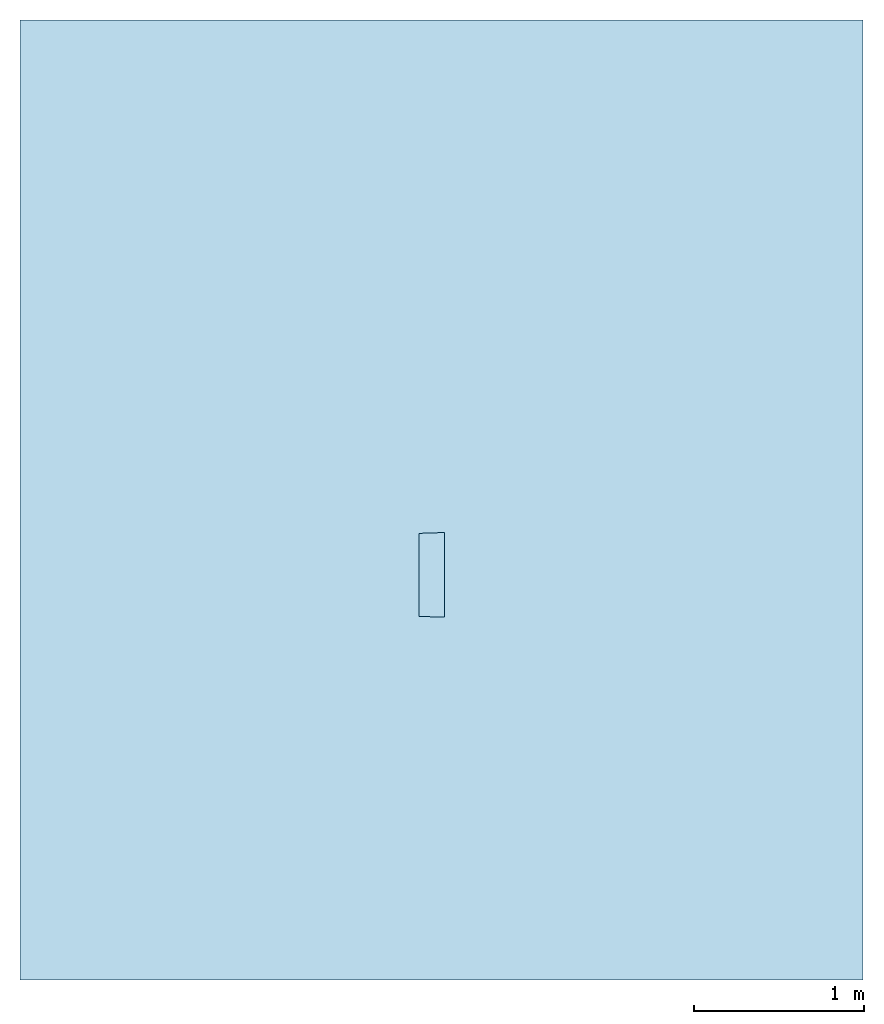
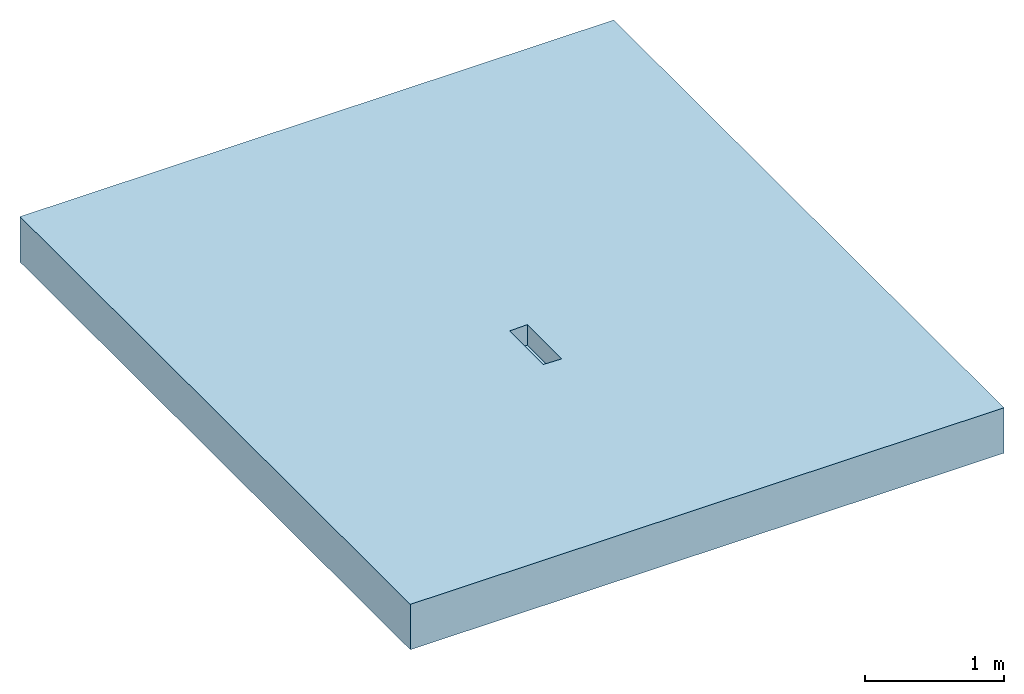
# One storey: 1 slab, 8 openings.
"""IFC2X3 building model written with IfcOpenShell, lengths in millimetres."""

from ifc_helpers import new_model, entity, si_unit, converted_unit, direction, frame, frame_2d, origin, origin_2d_with_axis, place, context, subcontext, project, spatial, polyline, circle_curve, parameter, trimmed, segment, composite_curve, rectangle, outline, extrude, material, layer, layer_set, layer_usage, element, save


model = new_model("IFC2X3")

# Units and contexts
model_context = context("Model", 3, precision=1e-06, world=origin(), true_north=direction((2.0, 6.12303176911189e-17, 1.0)))
context_of_model = context(None, 3, precision=1e-06, world=origin(), true_north=direction((2.0, 6.12303176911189e-17, 1.0)))
body_context = subcontext(model_context, "Body", "Model", "MODEL_VIEW")
ifc_project = project(units=[si_unit("LENGTHUNIT", "METRE", prefix="MILLI"), si_unit("AREAUNIT", "SQUARE_METRE", prefix="MILLI"), si_unit("VOLUMEUNIT", "CUBIC_METRE", prefix="MILLI"), converted_unit("PLANEANGLEUNIT", "DEGREE", entity("IfcRatioMeasure", 0.0174532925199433), si_unit("PLANEANGLEUNIT", "RADIAN"), dimensions=[0, 0, 0, 0, 0, 0, 0]), si_unit("TIMEUNIT", "SECOND")], contexts=[model_context, context_of_model])

# Site, building, storey
site_placement = place(None, origin())
site = spatial("IfcSite", under=ifc_project, at=site_placement, Name="Default", CompositionType="ELEMENT")
building_placement = place(site_placement, origin())
building = spatial("IfcBuilding", under=site, at=building_placement, CompositionType="ELEMENT")
storey_placement = place(building_placement, origin())
storey = spatial("IfcBuildingStorey", under=building, at=storey_placement, Name="Level 1", CompositionType="ELEMENT", Elevation=0.0)

# Slab, openings
ifc_material = material(Name="Default Floor")
ifc_layer = layer(ifc_material, 400.0)
ifc_layer_set = layer_set([ifc_layer], Name="Floor:Generic Floor - 400mm")
ifc_layer_usage = layer_usage(ifc_layer_set, "AXIS3", "POSITIVE", 0.0)
slab_placement = place(storey_placement, frame((-6426.51252910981, -8304.1683846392, -400.0)))
slab = element("IfcSlab", 1, at=slab_placement, inside=storey, material=ifc_layer_usage, Name="Floor:Generic Floor - 400mm", ObjectType="Floor:Generic Floor - 400mm", PredefinedType="FLOOR", context=body_context, shape_type="SweptSolid", body=[
    extrude(rectangle(XDim=5632.29114211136, YDim=4946.28644627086, at=frame_2d((0.0, 0.0), x_axis=(0.0, -1.0))), frame((2473.14322313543, 2816.14557105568, 400.0), z_axis=(0.0, 0.0, -1.0), x_axis=(-1.0, 0.0, 0.0)), (0.0, 0.0, 1.0), 400.0),
])
opening_1_placement = place(slab_placement, origin())
element("IfcOpeningElement", 2, at=opening_1_placement, cuts=slab, ObjectType="Recess", context=body_context, shape_type="SweptSolid", body=[
    extrude(outline(polyline([(0.345136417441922, -99.5859028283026), (250.059069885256, -99.5859028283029), (748.457483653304, -69.1913565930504), (732.85134429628, 81.6537526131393), (490.588397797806, 61.9859364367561), (4.67362464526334, 52.1541665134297), (-241.186092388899, 62.6944521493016), (-730.579325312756, 113.956421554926), (-752.634468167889, -36.3625203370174), (-502.575170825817, -67.7190466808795), (0.345136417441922, -99.5859028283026)])), frame((2389.94728480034, 2876.28426448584, -2670.0), z_axis=(0.0, 0.0, 1.0), x_axis=(0.0217915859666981, -0.999762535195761, 0.0)), (0.0, 0.0, 1.0), 9.99999999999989),
])
opening_2_placement = place(slab_placement, origin())
element("IfcOpeningElement", 3, at=opening_2_placement, cuts=slab, ObjectType="Recess", context=body_context, shape_type="SweptSolid", body=[
    extrude(outline(composite_curve([segment(polyline([(-203.334382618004, -101.667191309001), (101.667191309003, -101.667191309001)]), True, "CONTINUOUS"), segment(polyline([(101.667191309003, -101.667191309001), (101.667191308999, 203.334382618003)]), True, "CONTINUOUS"), segment(trimmed(circle_curve(frame_2d((101.667191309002, -101.667191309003), x_axis=(0.0, -1.0)), 305.001573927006), [parameter(180.0)], [parameter(270.0)], True, "PARAMETER"), True, "CONTINUOUS")], self_intersect=False)), frame((2364.69423813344, 2228.51570532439, -2220.0), z_axis=(0.0, 0.0, 1.0), x_axis=(0.0, -1.0, 0.0)), (0.0, 0.0, 1.0), 19.2999999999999),
])
opening_3_placement = place(slab_placement, origin())
element("IfcOpeningElement", 4, at=opening_3_placement, cuts=slab, ObjectType="Recess", context=body_context, shape_type="SweptSolid", body=[
    extrude(rectangle(XDim=500.0, YDim=150.000000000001, at=origin_2d_with_axis()), frame((2415.52547370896, 2376.83592772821, -6605.0), z_axis=(0.0, 0.0, 1.0), x_axis=(0.0, -1.0, 0.0)), (0.0, 0.0, 1.0), 4.99999999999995),
])
opening_4_placement = place(slab_placement, origin())
element("IfcOpeningElement", 5, at=opening_4_placement, cuts=slab, ObjectType="Recess", context=body_context, shape_type="SweptSolid", body=[
    extrude(outline(composite_curve([segment(polyline([(-241.75000000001, -74.9390970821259), (241.749999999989, -74.9390970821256)]), True, "CONTINUOUS"), segment(polyline([(241.749999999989, -74.9390970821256), (247.79374999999, 74.9390970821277)]), True, "CONTINUOUS"), segment(trimmed(circle_curve(frame_2d((0.0, -6070.06686365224), x_axis=(0.0, 1.0)), 6150.0), [parameter(357.690832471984)], [parameter(2.30916752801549)], True, "PARAMETER"), True, "CONTINUOUS"), segment(polyline([(-247.79375000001, 74.939097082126), (-241.75000000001, -74.9390970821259)]), True, "CONTINUOUS")], self_intersect=False)), frame((2412.96900980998, 2368.59858677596, -5605.0), z_axis=(0.0, 0.0, 1.0), x_axis=(0.0, -1.0, 0.0)), (0.0, 0.0, 1.0), 4.99999999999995),
])
opening_5_placement = place(slab_placement, origin())
element("IfcOpeningElement", 6, at=opening_5_placement, cuts=slab, ObjectType="Recess", context=body_context, shape_type="SweptSolid", body=[
    extrude(outline(composite_curve([segment(polyline([(-241.54885459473, -74.9381948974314), (241.548854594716, -74.9381948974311)]), True, "CONTINUOUS"), segment(polyline([(241.548854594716, -74.9381948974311), (247.592531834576, 74.9381948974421)]), True, "CONTINUOUS"), segment(trimmed(circle_curve(frame_2d((0.0, -6065.07778192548), x_axis=(0.0, 1.0)), 6145.00596073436), [parameter(357.690832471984)], [parameter(2.30916752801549)], True, "PARAMETER"), True, "CONTINUOUS"), segment(polyline([(-247.592531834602, 74.9381948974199), (-241.54885459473, -74.9381948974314)]), True, "CONTINUOUS")], self_intersect=False)), frame((2413.03048175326, 2374.42845956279, -4105.0), z_axis=(0.0, 0.0, 1.0), x_axis=(0.0, -1.0, 0.0)), (0.0, 0.0, 1.0), 4.99999999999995),
])
opening_6_placement = place(slab_placement, origin())
element("IfcOpeningElement", 7, at=opening_6_placement, cuts=slab, ObjectType="Recess", context=body_context, shape_type="SweptSolid", body=[
    extrude(outline(composite_curve([segment(polyline([(-215.49776955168, -74.4605683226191), (215.497769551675, -74.4605683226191)]), True, "CONTINUOUS"), segment(polyline([(215.497769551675, -74.4605683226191), (233.455917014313, 74.460568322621)]), True, "CONTINUOUS"), segment(trimmed(circle_curve(frame_2d((0.0, -1861.5142080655), x_axis=(0.0, 1.0)), 1950.0), [parameter(353.124)], [parameter(6.876)], True, "PARAMETER"), True, "CONTINUOUS"), segment(polyline([(-233.455917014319, 74.4605683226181), (-215.49776955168, -74.4605683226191)]), True, "CONTINUOUS")], self_intersect=False)), frame((2410.05674518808, 2360.29426106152, -4405.0), z_axis=(0.0, 0.0, 1.0), x_axis=(0.0, -1.0, 0.0)), (0.0, 0.0, 1.0), 4.99999999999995),
])
opening_7_placement = place(slab_placement, origin())
element("IfcOpeningElement", 8, at=opening_7_placement, cuts=slab, ObjectType="Recess", context=body_context, shape_type="SweptSolid", body=[
    extrude(outline(polyline([(-66.8462068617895, -245.863447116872), (83.2371033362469, -245.863447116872), (66.6796327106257, 250.860671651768), (-83.0705291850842, 240.866222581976), (-66.8462068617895, -245.863447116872)])), frame((2415.52547370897, 2376.83592772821, 220.0), z_axis=(0.0, 0.0, 1.0), x_axis=(0.999444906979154, -0.0333148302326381, 0.0)), (0.0, 0.0, 1.0), 180.000000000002),
])
opening_8_placement = place(slab_placement, origin())
element("IfcOpeningElement", 9, at=opening_8_placement, cuts=slab, ObjectType="Recess", context=body_context, shape_type="SweptSolid", body=[
    extrude(outline(polyline([(272.202200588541, -95.5390299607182), (521.683473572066, -95.5390299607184), (1019.62012351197, -65.197585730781), (1004.17745936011, 84.0055760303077), (761.738883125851, 64.2965097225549), (275.468102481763, 54.425051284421), (59.1788935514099, 63.1504408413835), (-156.649754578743, 79.6709528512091), (-155.978519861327, 111.966971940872), (-458.913098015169, 118.263110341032), (-458.958799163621, 116.064229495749), (-459.28512945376, 116.111951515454), (-459.611447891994, 116.159690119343), (-481.386446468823, -32.2573193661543), (-395.505718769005, -44.2061420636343), (-309.479906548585, -54.941338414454), (-312.242271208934, -187.850706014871), (-162.274658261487, -190.967606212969), (-159.774989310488, -70.6976707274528), (55.9916033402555, -86.9180556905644), (272.202200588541, -95.5390299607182)])), frame((2449.22714058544, 2590.10736887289, -2610.0), z_axis=(0.0, 0.0, 1.0), x_axis=(-0.0207793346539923, 0.999784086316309, 0.0)), (0.0, 0.0, 1.0), 9.99999999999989),
])

save(model, "model.ifc")
